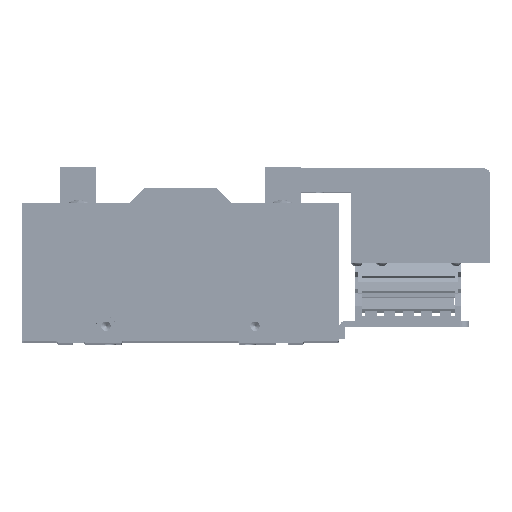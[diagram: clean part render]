
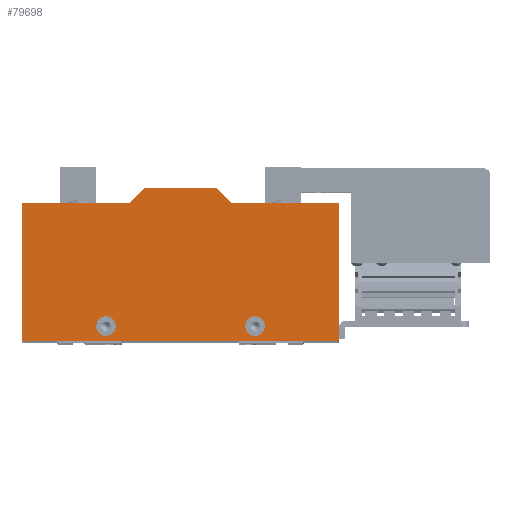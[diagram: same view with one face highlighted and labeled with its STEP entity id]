
A CAD part, top view. The second image highlights one B-rep face of the part: STEP entity #79698.
In plain terms, the highlighted planar face has unit normal (0, 0, 1).
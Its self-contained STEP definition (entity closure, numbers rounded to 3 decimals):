
#77807 = CARTESIAN_POINT ( 'NONE',  ( -34.75, -29., 9.525 ) ) ;
#77812 = CARTESIAN_POINT ( 'NONE',  ( -45.25, -29., 9.525 ) ) ;
#78169 = VERTEX_POINT ( 'NONE', #77807 ) ;
#78172 = VERTEX_POINT ( 'NONE', #77812 ) ;
#78405 = VERTEX_POINT ( 'NONE', #78671 ) ;
#78408 = VERTEX_POINT ( 'NONE', #78668 ) ;
#78420 = EDGE_CURVE ( 'NONE', #78408, #78405, #78707, .T. ) ;
#78627 = EDGE_CURVE ( 'NONE', #78172, #78169, #88009, .T. ) ;
#78668 = CARTESIAN_POINT ( 'NONE',  ( 34.75, -29., 9.525 ) ) ;
#78671 = CARTESIAN_POINT ( 'NONE',  ( 45.25, -29., 9.525 ) ) ;
#78683 = CARTESIAN_POINT ( 'NONE',  ( 40., -29., 9.525 ) ) ;
#78702 = DIRECTION ( 'NONE',  ( 1., 0., 0. ) ) ;
#78704 = DIRECTION ( 'NONE',  ( 0., 0., 1. ) ) ;
#78706 = AXIS2_PLACEMENT_3D ( 'NONE', #78683, #78704, #78702 ) ;
#78707 = CIRCLE ( 'NONE', #78706, 5.25 ) ;
#79100 = VERTEX_POINT ( 'NONE', #85415 ) ;
#79300 = VERTEX_POINT ( 'NONE', #86256 ) ;
#79316 = EDGE_CURVE ( 'NONE', #80784, #79300, #86234, .T. ) ;
#79357 = EDGE_CURVE ( 'NONE', #79300, #79100, #86436, .T. ) ;
#79401 = VERTEX_POINT ( 'NONE', #86063 ) ;
#79583 = EDGE_CURVE ( 'NONE', #79597, #79401, #86909, .T. ) ;
#79597 = VERTEX_POINT ( 'NONE', #86876 ) ;
#79614 = EDGE_CURVE ( 'NONE', #79100, #79597, #87044, .T. ) ;
#79628 = EDGE_LOOP ( 'NONE', ( #79723, #79691 ) ) ;
#79667 = ORIENTED_EDGE ( 'NONE', *, *, #78627, .F. ) ;
#79669 = EDGE_LOOP ( 'NONE', ( #79734, #79726, #79750, #79839, #79970, #80063, #79991, #79937 ) ) ;
#79686 = ORIENTED_EDGE ( 'NONE', *, *, #79695, .F. ) ;
#79691 = ORIENTED_EDGE ( 'NONE', *, *, #78420, .F. ) ;
#79692 = EDGE_CURVE ( 'NONE', #78405, #78408, #87247, .T. ) ;
#79695 = EDGE_CURVE ( 'NONE', #78169, #78172, #87238, .T. ) ;
#79698 = ADVANCED_FACE ( 'NONE', ( #87273, #87272, #87271 ), #87270, .T. ) ;
#79701 = EDGE_CURVE ( 'NONE', #79401, #80710, #87300, .T. ) ;
#79722 = EDGE_LOOP ( 'NONE', ( #79686, #79667 ) ) ;
#79723 = ORIENTED_EDGE ( 'NONE', *, *, #79692, .F. ) ;
#79726 = ORIENTED_EDGE ( 'NONE', *, *, #80743, .T. ) ;
#79734 = ORIENTED_EDGE ( 'NONE', *, *, #80709, .T. ) ;
#79750 = ORIENTED_EDGE ( 'NONE', *, *, #80832, .T. ) ;
#79839 = ORIENTED_EDGE ( 'NONE', *, *, #79316, .T. ) ;
#79937 = ORIENTED_EDGE ( 'NONE', *, *, #79701, .T. ) ;
#79970 = ORIENTED_EDGE ( 'NONE', *, *, #79357, .T. ) ;
#79991 = ORIENTED_EDGE ( 'NONE', *, *, #79583, .T. ) ;
#80063 = ORIENTED_EDGE ( 'NONE', *, *, #79614, .T. ) ;
#80709 = EDGE_CURVE ( 'NONE', #80710, #80809, #89119, .T. ) ;
#80710 = VERTEX_POINT ( 'NONE', #89094 ) ;
#80743 = EDGE_CURVE ( 'NONE', #80809, #80790, #89133, .T. ) ;
#80784 = VERTEX_POINT ( 'NONE', #89209 ) ;
#80790 = VERTEX_POINT ( 'NONE', #89193 ) ;
#80809 = VERTEX_POINT ( 'NONE', #89239 ) ;
#80832 = EDGE_CURVE ( 'NONE', #80790, #80784, #89269, .T. ) ;
#85415 = CARTESIAN_POINT ( 'NONE',  ( 19.5, 45., 9.525 ) ) ;
#86063 = CARTESIAN_POINT ( 'NONE',  ( -27.5, 37., 9.525 ) ) ;
#86231 = DIRECTION ( 'NONE',  ( -1., 0., 0. ) ) ;
#86232 = VECTOR ( 'NONE', #86231, 1000. ) ;
#86233 = CARTESIAN_POINT ( 'NONE',  ( 27.5, 37., 9.525 ) ) ;
#86234 = LINE ( 'NONE', #86233, #86232 ) ;
#86256 = CARTESIAN_POINT ( 'NONE',  ( 27.5, 37., 9.525 ) ) ;
#86431 = DIRECTION ( 'NONE',  ( -0.707, 0.707, 0. ) ) ;
#86432 = VECTOR ( 'NONE', #86431, 1000. ) ;
#86435 = CARTESIAN_POINT ( 'NONE',  ( 19.5, 45., 9.525 ) ) ;
#86436 = LINE ( 'NONE', #86435, #86432 ) ;
#86876 = CARTESIAN_POINT ( 'NONE',  ( -19.5, 45., 9.525 ) ) ;
#86903 = DIRECTION ( 'NONE',  ( -0.707, -0.707, 0. ) ) ;
#86905 = VECTOR ( 'NONE', #86903, 1000. ) ;
#86907 = CARTESIAN_POINT ( 'NONE',  ( -27.5, 37., 9.525 ) ) ;
#86909 = LINE ( 'NONE', #86907, #86905 ) ;
#87041 = DIRECTION ( 'NONE',  ( -1., 0., 0. ) ) ;
#87042 = VECTOR ( 'NONE', #87041, 1000. ) ;
#87043 = CARTESIAN_POINT ( 'NONE',  ( -19.5, 45., 9.525 ) ) ;
#87044 = LINE ( 'NONE', #87043, #87042 ) ;
#87234 = DIRECTION ( 'NONE',  ( 1., 0., 0. ) ) ;
#87235 = DIRECTION ( 'NONE',  ( 0., 0., 1. ) ) ;
#87236 = CARTESIAN_POINT ( 'NONE',  ( -40., -29., 9.525 ) ) ;
#87237 = AXIS2_PLACEMENT_3D ( 'NONE', #87236, #87235, #87234 ) ;
#87238 = CIRCLE ( 'NONE', #87237, 5.25 ) ;
#87243 = DIRECTION ( 'NONE',  ( 1., 0., 0. ) ) ;
#87244 = DIRECTION ( 'NONE',  ( 0., 0., 1. ) ) ;
#87245 = CARTESIAN_POINT ( 'NONE',  ( 40., -29., 9.525 ) ) ;
#87246 = AXIS2_PLACEMENT_3D ( 'NONE', #87245, #87244, #87243 ) ;
#87247 = CIRCLE ( 'NONE', #87246, 5.25 ) ;
#87270 = PLANE ( 'NONE',  #87280 ) ;
#87271 = FACE_OUTER_BOUND ( 'NONE', #79669, .T. ) ;
#87272 = FACE_BOUND ( 'NONE', #79628, .T. ) ;
#87273 = FACE_BOUND ( 'NONE', #79722, .T. ) ;
#87277 = DIRECTION ( 'NONE',  ( 1., 0., 0. ) ) ;
#87278 = DIRECTION ( 'NONE',  ( 0., 0., 1. ) ) ;
#87279 = CARTESIAN_POINT ( 'NONE',  ( -85., 37., 9.525 ) ) ;
#87280 = AXIS2_PLACEMENT_3D ( 'NONE', #87279, #87278, #87277 ) ;
#87297 = DIRECTION ( 'NONE',  ( -1., 0., 0. ) ) ;
#87298 = VECTOR ( 'NONE', #87297, 1000. ) ;
#87299 = CARTESIAN_POINT ( 'NONE',  ( -85., 37., 9.525 ) ) ;
#87300 = LINE ( 'NONE', #87299, #87298 ) ;
#87982 = DIRECTION ( 'NONE',  ( 1., 0., 0. ) ) ;
#87987 = CARTESIAN_POINT ( 'NONE',  ( -40., -29., 9.525 ) ) ;
#87988 = AXIS2_PLACEMENT_3D ( 'NONE', #87987, #88062, #87982 ) ;
#88009 = CIRCLE ( 'NONE', #87988, 5.25 ) ;
#88062 = DIRECTION ( 'NONE',  ( 0., 0., 1. ) ) ;
#89094 = CARTESIAN_POINT ( 'NONE',  ( -85., 37., 9.525 ) ) ;
#89095 = DIRECTION ( 'NONE',  ( 0., -1., 0. ) ) ;
#89117 = VECTOR ( 'NONE', #89095, 1000. ) ;
#89118 = CARTESIAN_POINT ( 'NONE',  ( -85., 37., 9.525 ) ) ;
#89119 = LINE ( 'NONE', #89118, #89117 ) ;
#89130 = DIRECTION ( 'NONE',  ( 1., 0., 0. ) ) ;
#89131 = VECTOR ( 'NONE', #89130, 1000. ) ;
#89132 = CARTESIAN_POINT ( 'NONE',  ( -85., -37., 9.525 ) ) ;
#89133 = LINE ( 'NONE', #89132, #89131 ) ;
#89193 = CARTESIAN_POINT ( 'NONE',  ( 85., -37., 9.525 ) ) ;
#89209 = CARTESIAN_POINT ( 'NONE',  ( 85., 37., 9.525 ) ) ;
#89239 = CARTESIAN_POINT ( 'NONE',  ( -85., -37., 9.525 ) ) ;
#89266 = DIRECTION ( 'NONE',  ( 0., 1., 0. ) ) ;
#89267 = VECTOR ( 'NONE', #89266, 1000. ) ;
#89268 = CARTESIAN_POINT ( 'NONE',  ( 85., 37., 9.525 ) ) ;
#89269 = LINE ( 'NONE', #89268, #89267 ) ;
